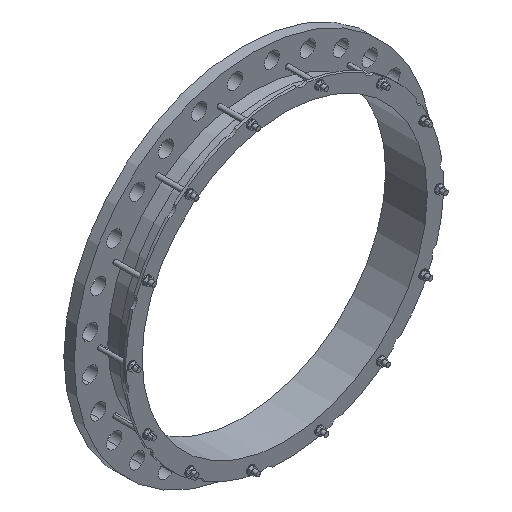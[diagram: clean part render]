
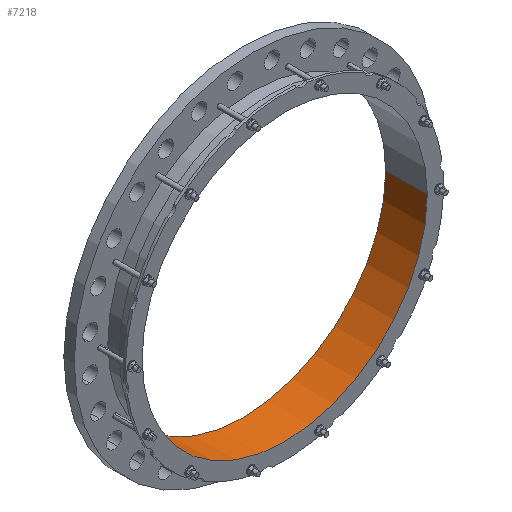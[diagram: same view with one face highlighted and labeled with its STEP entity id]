
A CAD part, isometric view. The second image highlights one B-rep face of the part: STEP entity #7218.
In plain terms, the highlighted cylindrical face has radius 525 mm (diameter 1050 mm), a partial arc.
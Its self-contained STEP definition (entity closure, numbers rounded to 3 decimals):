
#7=CARTESIAN_POINT('',(0.,38.,0.));
#8=DIRECTION('',(0.,1.,0.));
#9=DIRECTION('',(1.,0.,0.));
#10=AXIS2_PLACEMENT_3D('',#7,#8,#9);
#2831=CARTESIAN_POINT('',(0.,-115.,0.));
#2832=DIRECTION('',(0.,1.,0.));
#2833=DIRECTION('',(1.,0.,0.));
#2834=AXIS2_PLACEMENT_3D('',#2831,#2832,#2833);
#2836=DIRECTION('',(0.,1.,0.));
#2837=VECTOR('',#2836,153.);
#2838=CARTESIAN_POINT('',(525.,-115.,0.));
#2839=LINE('',#2838,#2837);
#2840=DIRECTION('',(0.,1.,0.));
#2841=VECTOR('',#2840,153.);
#2842=CARTESIAN_POINT('',(-525.,-115.,0.));
#2843=LINE('',#2842,#2841);
#4928=CARTESIAN_POINT('',(525.,-115.,0.));
#4929=CARTESIAN_POINT('',(525.,38.,0.));
#4930=VERTEX_POINT('',#4928);
#4931=VERTEX_POINT('',#4929);
#4936=CARTESIAN_POINT('',(-525.,-115.,0.));
#4937=CARTESIAN_POINT('',(-525.,38.,0.));
#4938=VERTEX_POINT('',#4936);
#4939=VERTEX_POINT('',#4937);
#7205=CARTESIAN_POINT('',(0.,-122.65,0.));
#7206=DIRECTION('',(0.,1.,0.));
#7207=DIRECTION('',(-1.,0.,0.));
#7208=AXIS2_PLACEMENT_3D('',#7205,#7206,#7207);
#7209=CYLINDRICAL_SURFACE('',#7208,525.);
#7211=ORIENTED_EDGE('',*,*,#7210,.F.);
#7212=ORIENTED_EDGE('',*,*,#7198,.T.);
#7214=ORIENTED_EDGE('',*,*,#7213,.T.);
#7215=ORIENTED_EDGE('',*,*,#5997,.F.);
#7216=EDGE_LOOP('',(#7211,#7212,#7214,#7215));
#7217=FACE_OUTER_BOUND('',#7216,.F.);
#7218=ADVANCED_FACE('',(#7217),#7209,.F.);
#11=CIRCLE('',#10,525.);
#2835=CIRCLE('',#2834,525.);
#5997=EDGE_CURVE('',#4931,#4939,#11,.T.);
#7198=EDGE_CURVE('',#4930,#4938,#2835,.T.);
#7210=EDGE_CURVE('',#4930,#4931,#2839,.T.);
#7213=EDGE_CURVE('',#4938,#4939,#2843,.T.);
